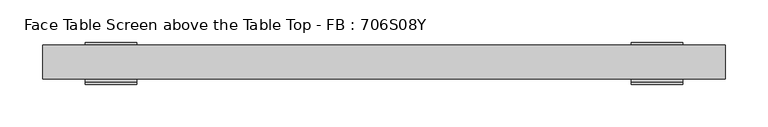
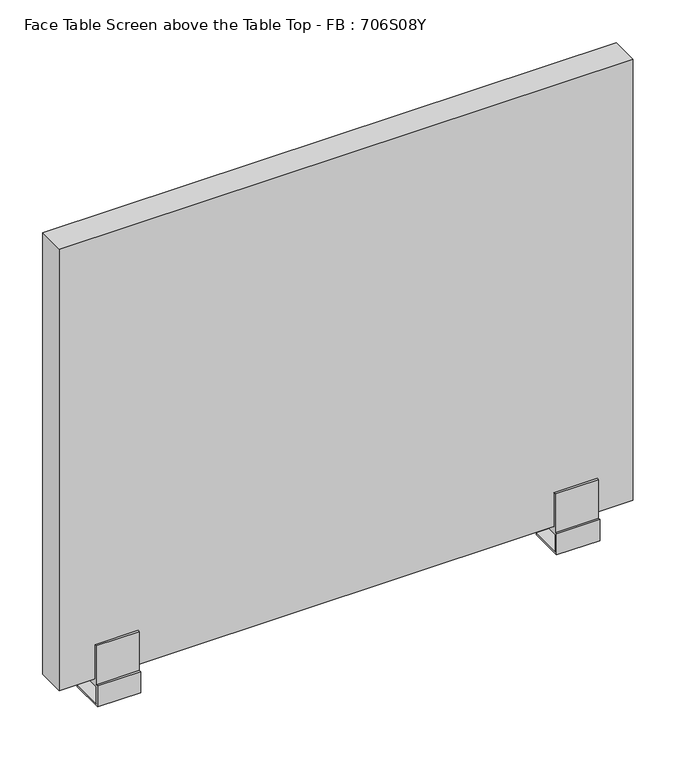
"""IFC4 building model written with IfcOpenShell, lengths in millimetres: furniture geometry, Face Table Screen above the Table Top - FB : 706S08Y."""

from ifc_helpers import new_model, si_unit, frame, origin, place, context, project, spatial, polyline, circle_curve, outline, extrude, source, transform, mapped, element, save
from ifc_brep_helpers import plane_surface, cylinder_surface, advanced_brep


def face_table_screen_above_the_table_top_fb_706s08y_dd091f89(model_context):
    return source(origin(), model_context, "Body", "SolidModel", [
        advanced_brep(
        [(-325.0, 20.0, -39.4406633), (-315.0, 20.0, -39.4406633), (-315.0, 20.0, -28.0), (-325.0, 20.0, -28.0), (-350.0, 43.0, -25.0), (-350.0, -3.0, -25.0), (-290.0, -3.0, -25.0), (-290.0, 43.0, -25.0), (-350.0, -3.0, 0.0), (-350.0, 43.0, -28.0), (-350.0, -6.0, -28.0), (-350.0, -6.0, 3.0), (-350.0, -3.0, 3.0), (-350.0, -3.0, 60.0), (-350.0, 0.0, 60.0), (-350.0, 0.0, 10.0), (-350.0, 40.0, 10.0), (-350.0, 40.0, 60.0), (-350.0, 43.0, 60.0), (-350.0, 43.0, 0.0), (-290.0, -3.0, 0.0), (-290.0, 43.0, 0.0), (-290.0, 43.0, 60.0), (-290.0, 40.0, 60.0), (-290.0, 40.0, 10.0), (-290.0, 0.0, 10.0), (-290.0, 0.0, 60.0), (-290.0, -3.0, 60.0), (-290.0, -3.0, 3.0), (-290.0, -6.0, 3.0), (-290.0, -6.0, -28.0), (-290.0, 43.0, -28.0)],
        [
            (0, 1, circle_curve(frame((-320.0, 20.0, -39.4406633), z_axis=(0.0, 0.0, -1.0), x_axis=(1.0, 0.0, 0.0)), 5.0)),
            (1, 0, circle_curve(frame((-320.0, 20.0, -39.4406633), z_axis=(0.0, 0.0, -1.0), x_axis=(1.0, 0.0, 0.0)), 5.0)),
            (1, 2),
            (2, 3, circle_curve(frame((-320.0, 20.0, -28.0), z_axis=(0.0, 0.0, -1.0), x_axis=(1.0, 0.0, 0.0)), 5.0)),
            (3, 0),
            (3, 2, circle_curve(frame((-320.0, 20.0, -28.0), z_axis=(0.0, 0.0, -1.0), x_axis=(1.0, 0.0, 0.0)), 5.0)),
            (4, 5),
            (5, 6),
            (6, 7),
            (7, 4),
            (8, 5),
            (4, 9),
            (9, 10),
            (10, 11),
            (11, 12),
            (12, 13),
            (13, 14),
            (14, 15),
            (15, 16),
            (16, 17),
            (17, 18),
            (18, 19),
            (19, 8),
            (20, 21),
            (21, 22),
            (22, 23),
            (23, 24),
            (24, 25),
            (25, 26),
            (26, 27),
            (27, 28),
            (28, 29),
            (29, 30),
            (30, 31),
            (31, 7),
            (6, 20),
            (19, 21),
            (20, 8),
            (18, 22),
            (17, 23),
            (16, 24),
            (15, 25),
            (14, 26),
            (13, 27),
            (12, 28),
            (11, 29),
            (10, 30),
            (9, 31),
        ],
        [
            plane_surface(frame((-315.0, 20.0, -39.4406633), z_axis=(0.0, 0.0, -1.0), x_axis=(0.0, -1.0, 0.0))),
            cylinder_surface(frame((-320.0, 20.0, -39.4406633), z_axis=(0.0, 0.0, 1.0), x_axis=(1.0, 0.0, 0.0)), 5.0),
            plane_surface(frame((-315.0, 20.0, -25.0), z_axis=(0.0, 0.0, 1.0), x_axis=(0.0, 1.0, 0.0))),
            plane_surface(frame((-350.0, 43.0, 0.0), z_axis=(-1.0, 0.0, 0.0), x_axis=(0.0, -1.0, 0.0))),
            plane_surface(frame((-290.0, 43.0, 0.0), z_axis=(1.0, 0.0, 0.0), x_axis=(0.0, 1.0, 0.0))),
            plane_surface(frame((-290.0, -3.0, 0.0), z_axis=(0.0, 0.0, -1.0), x_axis=(-1.0, 0.0, 0.0))),
            plane_surface(frame((-290.0, 43.0, 0.0), z_axis=(0.0, 1.0, 0.0), x_axis=(-1.0, 0.0, 0.0))),
            plane_surface(frame((-290.0, 43.0, 60.0), z_axis=(0.0, 0.0, 1.0), x_axis=(-1.0, 0.0, 0.0))),
            plane_surface(frame((-290.0, 40.0, 60.0), z_axis=(0.0, -1.0, 0.0), x_axis=(-1.0, 0.0, 0.0))),
            plane_surface(frame((-290.0, 40.0, 10.0), z_axis=(0.0, 0.0, 1.0), x_axis=(-1.0, 0.0, 0.0))),
            plane_surface(frame((-290.0, 0.0, 10.0), z_axis=(0.0, 1.0, 0.0), x_axis=(-1.0, 0.0, 0.0))),
            plane_surface(frame((-290.0, 0.0, 60.0), z_axis=(0.0, 0.0, 1.0), x_axis=(-1.0, 0.0, 0.0))),
            plane_surface(frame((-290.0, -3.0, 60.0), z_axis=(0.0, -1.0, 0.0), x_axis=(-1.0, 0.0, 0.0))),
            plane_surface(frame((-290.0, -3.0, 3.0), z_axis=(0.0, 0.0, 1.0), x_axis=(-1.0, 0.0, 0.0))),
            plane_surface(frame((-290.0, -6.0, 3.0), z_axis=(0.0, -1.0, 0.0), x_axis=(-1.0, 0.0, 0.0))),
            plane_surface(frame((-290.0, -6.0, -28.0), z_axis=(0.0, 0.0, -1.0), x_axis=(-1.0, 0.0, 0.0))),
            plane_surface(frame((-290.0, 43.0, -28.0), z_axis=(0.0, 1.0, 0.0), x_axis=(-1.0, 0.0, 0.0))),
            plane_surface(frame((-290.0, -3.0, -25.0), z_axis=(0.0, 1.0, 0.0), x_axis=(-1.0, 0.0, 0.0))),
        ],
        [
            (0, [[1, 2]]),
            (1, [[-2, 3, 4, 5]]),
            (1, [[-1, -5, 6, -3]]),
            (2, [[7, 8, 9, 10]]),
            (3, [[11, -7, 12, 13, 14, 15, 16, 17, 18, 19, 20, 21, 22, 23]]),
            (4, [[24, 25, 26, 27, 28, 29, 30, 31, 32, 33, 34, 35, -9, 36]]),
            (5, [[-23, 37, -24, 38]]),
            (6, [[-22, 39, -25, -37]]),
            (7, [[-21, 40, -26, -39]]),
            (8, [[-20, 41, -27, -40]]),
            (9, [[-19, 42, -28, -41]]),
            (10, [[-18, 43, -29, -42]]),
            (11, [[-17, 44, -30, -43]]),
            (12, [[-16, 45, -31, -44]]),
            (13, [[-15, 46, -32, -45]]),
            (14, [[-14, 47, -33, -46]]),
            (15, [[-13, 48, -34, -47], [-4, -6]]),
            (16, [[-12, -10, -35, -48]]),
            (17, [[-11, -38, -36, -8]]),
        ],
    ),
        advanced_brep(
        [(315.0, 20.0, -39.4406633), (325.0, 20.0, -39.4406633), (325.0, 20.0, -28.0), (315.0, 20.0, -28.0), (290.0, 43.0, -25.0), (290.0, -3.0, -25.0), (350.0, -3.0, -25.0), (350.0, 43.0, -25.0), (290.0, -3.0, 0.0), (290.0, 43.0, -28.0), (290.0, -6.0, -28.0), (290.0, -6.0, 3.0), (290.0, -3.0, 3.0), (290.0, -3.0, 60.0), (290.0, 0.0, 60.0), (290.0, 0.0, 10.0), (290.0, 40.0, 10.0), (290.0, 40.0, 60.0), (290.0, 43.0, 60.0), (290.0, 43.0, 0.0), (350.0, -3.0, 0.0), (350.0, 43.0, 0.0), (350.0, 43.0, 60.0), (350.0, 40.0, 60.0), (350.0, 40.0, 10.0), (350.0, 0.0, 10.0), (350.0, 0.0, 60.0), (350.0, -3.0, 60.0), (350.0, -3.0, 3.0), (350.0, -6.0, 3.0), (350.0, -6.0, -28.0), (350.0, 43.0, -28.0)],
        [
            (0, 1, circle_curve(frame((320.0, 20.0, -39.4406633), z_axis=(0.0, 0.0, -1.0), x_axis=(1.0, 0.0, 0.0)), 5.0)),
            (1, 0, circle_curve(frame((320.0, 20.0, -39.4406633), z_axis=(0.0, 0.0, -1.0), x_axis=(1.0, 0.0, 0.0)), 5.0)),
            (1, 2),
            (2, 3, circle_curve(frame((320.0, 20.0, -28.0), z_axis=(0.0, 0.0, -1.0), x_axis=(1.0, 0.0, 0.0)), 5.0)),
            (3, 0),
            (3, 2, circle_curve(frame((320.0, 20.0, -28.0), z_axis=(0.0, 0.0, -1.0), x_axis=(1.0, 0.0, 0.0)), 5.0)),
            (4, 5),
            (5, 6),
            (6, 7),
            (7, 4),
            (8, 5),
            (4, 9),
            (9, 10),
            (10, 11),
            (11, 12),
            (12, 13),
            (13, 14),
            (14, 15),
            (15, 16),
            (16, 17),
            (17, 18),
            (18, 19),
            (19, 8),
            (20, 21),
            (21, 22),
            (22, 23),
            (23, 24),
            (24, 25),
            (25, 26),
            (26, 27),
            (27, 28),
            (28, 29),
            (29, 30),
            (30, 31),
            (31, 7),
            (6, 20),
            (19, 21),
            (20, 8),
            (18, 22),
            (17, 23),
            (16, 24),
            (15, 25),
            (14, 26),
            (13, 27),
            (12, 28),
            (11, 29),
            (10, 30),
            (9, 31),
        ],
        [
            plane_surface(frame((325.0, 20.0, -39.4406633), z_axis=(0.0, 0.0, -1.0), x_axis=(0.0, -1.0, 0.0))),
            cylinder_surface(frame((320.0, 20.0, -39.4406633), z_axis=(0.0, 0.0, 1.0), x_axis=(1.0, 0.0, 0.0)), 5.0),
            plane_surface(frame((325.0, 20.0, -25.0), z_axis=(0.0, 0.0, 1.0), x_axis=(0.0, 1.0, 0.0))),
            plane_surface(frame((290.0, 43.0, 0.0), z_axis=(-1.0, 0.0, 0.0), x_axis=(0.0, -1.0, 0.0))),
            plane_surface(frame((350.0, 43.0, 0.0), z_axis=(1.0, 0.0, 0.0), x_axis=(0.0, 1.0, 0.0))),
            plane_surface(frame((350.0, -3.0, 0.0), z_axis=(0.0, 0.0, -1.0), x_axis=(-1.0, 0.0, 0.0))),
            plane_surface(frame((350.0, 43.0, 0.0), z_axis=(0.0, 1.0, 0.0), x_axis=(-1.0, 0.0, 0.0))),
            plane_surface(frame((350.0, 43.0, 60.0), z_axis=(0.0, 0.0, 1.0), x_axis=(-1.0, 0.0, 0.0))),
            plane_surface(frame((350.0, 40.0, 60.0), z_axis=(0.0, -1.0, 0.0), x_axis=(-1.0, 0.0, 0.0))),
            plane_surface(frame((350.0, 40.0, 10.0), z_axis=(0.0, 0.0, 1.0), x_axis=(-1.0, 0.0, 0.0))),
            plane_surface(frame((350.0, 0.0, 10.0), z_axis=(0.0, 1.0, 0.0), x_axis=(-1.0, 0.0, 0.0))),
            plane_surface(frame((350.0, 0.0, 60.0), z_axis=(0.0, 0.0, 1.0), x_axis=(-1.0, 0.0, 0.0))),
            plane_surface(frame((350.0, -3.0, 60.0), z_axis=(0.0, -1.0, 0.0), x_axis=(-1.0, 0.0, 0.0))),
            plane_surface(frame((350.0, -3.0, 3.0), z_axis=(0.0, 0.0, 1.0), x_axis=(-1.0, 0.0, 0.0))),
            plane_surface(frame((350.0, -6.0, 3.0), z_axis=(0.0, -1.0, 0.0), x_axis=(-1.0, 0.0, 0.0))),
            plane_surface(frame((350.0, -6.0, -28.0), z_axis=(0.0, 0.0, -1.0), x_axis=(-1.0, 0.0, 0.0))),
            plane_surface(frame((350.0, 43.0, -28.0), z_axis=(0.0, 1.0, 0.0), x_axis=(-1.0, 0.0, 0.0))),
            plane_surface(frame((350.0, -3.0, -25.0), z_axis=(0.0, 1.0, 0.0), x_axis=(-1.0, 0.0, 0.0))),
        ],
        [
            (0, [[1, 2]]),
            (1, [[-2, 3, 4, 5]]),
            (1, [[-1, -5, 6, -3]]),
            (2, [[7, 8, 9, 10]]),
            (3, [[11, -7, 12, 13, 14, 15, 16, 17, 18, 19, 20, 21, 22, 23]]),
            (4, [[24, 25, 26, 27, 28, 29, 30, 31, 32, 33, 34, 35, -9, 36]]),
            (5, [[-23, 37, -24, 38]]),
            (6, [[-22, 39, -25, -37]]),
            (7, [[-21, 40, -26, -39]]),
            (8, [[-20, 41, -27, -40]]),
            (9, [[-19, 42, -28, -41]]),
            (10, [[-18, 43, -29, -42]]),
            (11, [[-17, 44, -30, -43]]),
            (12, [[-16, 45, -31, -44]]),
            (13, [[-15, 46, -32, -45]]),
            (14, [[-14, 47, -33, -46]]),
            (15, [[-13, 48, -34, -47], [-4, -6]]),
            (16, [[-12, -10, -35, -48]]),
            (17, [[-11, -38, -36, -8]]),
        ],
    ),
        extrude(outline(polyline([(400.0, 0.0), (-400.0, 0.0), (-400.0, 40.0), (400.0, 40.0), (400.0, 0.0)])), frame((0.0, 0.0, 10.0), z_axis=(0.0, 0.0, 1.0), x_axis=(1.0, 0.0, 0.0)), (0.0, 0.0, 1.0), 650.0),
    ])


if __name__ == "__main__":
    model = new_model("IFC4")
    model_context = context("Model", 3, world=origin())
    ifc_project = project(units=[si_unit("LENGTHUNIT", "METRE", prefix="MILLI")], contexts=[model_context])
    site = spatial("IfcSite", under=ifc_project)
    building = spatial("IfcBuilding", under=site)
    placement = place(None, origin())
    face_table_screen_above_the_table_top_fb_706s08y_shape = face_table_screen_above_the_table_top_fb_706s08y_dd091f89(model_context)
    element("IfcFurniture", 1, ObjectType="Face Table Screen above the Table Top - FB : 706S08Y", at=placement, inside=building, context=model_context, shape_type="MappedRepresentation", body=[
        mapped(face_table_screen_above_the_table_top_fb_706s08y_shape, transform((0.0, 0.0, 0.0), x_axis=(1.0, 0.0, 0.0), y_axis=(0.0, 1.0, 0.0), z_axis=(0.0, 0.0, 1.0))),
    ])
    save(model, "model.ifc")
